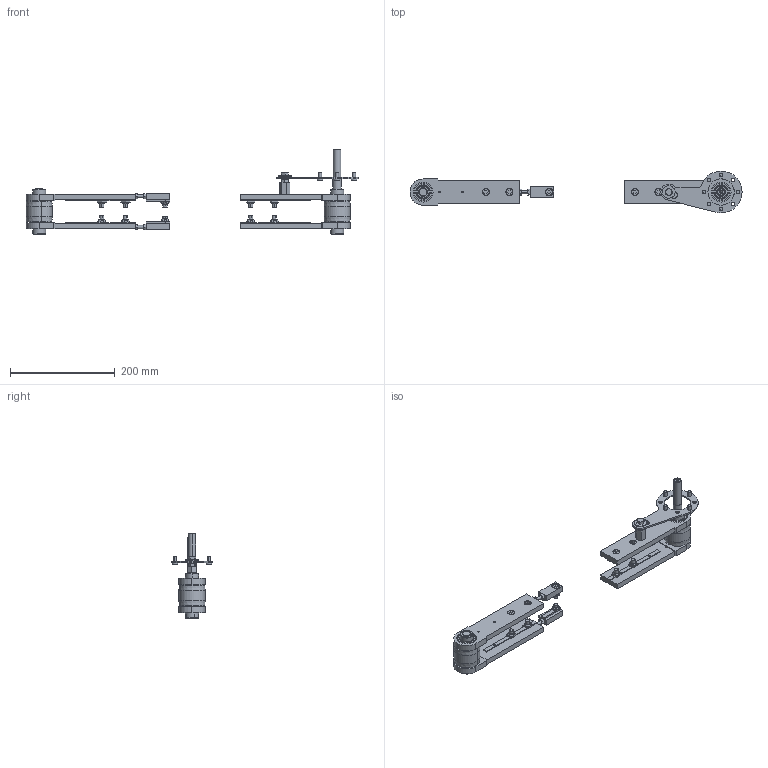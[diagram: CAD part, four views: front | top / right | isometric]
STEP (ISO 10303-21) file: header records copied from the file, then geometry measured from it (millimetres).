
FILE_DESCRIPTION (( 'STEP AP214' ), '1' );
FILE_NAME ('084.815.028.STEP', '2020-01-24T15:24:50', ( 'Localadmin' ), ( 'Microsoft' ), 'SwSTEP 2.0', 'SolidWorks 2018', '' );
FILE_SCHEMA (( 'AUTOMOTIVE_DESIGN' ));
Length unit declared in the file: millimetre
Products named in the file (18): 084.815.110-1; 084.802.017_084.802.017; 084.000.A02_CON DADO; 084.807.003_084.807.003; VITI TE UNI 5739_M8x25 UNI 5739; RONDELLE FASCIA LARGA UNI 6593_8.4x24 UNI 6593; 084.815.028; DADI ESAGONALI RIBASSATI UNI 5589_M8 UNI 5589; 084.301.000 VITI ALUSIC_084.301.010; GRANI A PUNTA PIATTA UNI 5923_M8x25 UNI 5923; 084.802.027; 084.807.005; CHIAVETTE_A 5x5x40 UNI 6604-69; 084.802.008; 084.807.002_084.807.002; 084.302.000 DADI ALUSIC 13x13_084.302.004; 084.301.000 VITI ALUSIC_084.301.003; 084.815.111
Assembly tree (44 placements, depth 3):
  084.815.028
    084.807.003_084.807.003
    084.802.017_084.802.017  x4
    084.815.110-1
    084.815.111
    084.301.000 VITI ALUSIC_084.301.003  x10
    084.302.000 DADI ALUSIC 13x13_084.302.004  x10
    084.807.002_084.807.002  x3
    084.802.008  x2
    CHIAVETTE_A 5x5x40 UNI 6604-69
    084.000.A02_CON DADO
      084.807.005
      084.802.027
      GRANI A PUNTA PIATTA UNI 5923_M8x25 UNI 5923
      084.301.000 VITI ALUSIC_084.301.010  x4
      DADI ESAGONALI RIBASSATI UNI 5589_M8 UNI 5589
      RONDELLE FASCIA LARGA UNI 6593_8.4x24 UNI 6593
      VITI TE UNI 5739_M8x25 UNI 5739
Bounding box: 635 x 80 x 163 mm (x, y, z)
Volume: 658064.9 mm3; surface area: 217355.1 mm2
Topology: 51 solids, 55 shells, 1060 faces, 2538 edges, 1621 vertices
Faces by surface type: plane 528, cylinder 324, cone 104, torus 88, sphere 16
Entity records: 14199 total; most frequent: CARTESIAN_POINT 2750, DIRECTION 2334, ORIENTED_EDGE 2048, EDGE_CURVE 1024, AXIS2_PLACEMENT_3D 918, VERTEX_POINT 654, EDGE_LOOP 512, VECTOR 498
